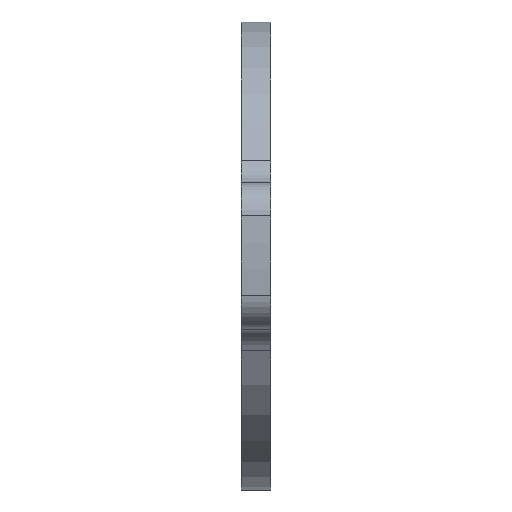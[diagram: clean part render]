
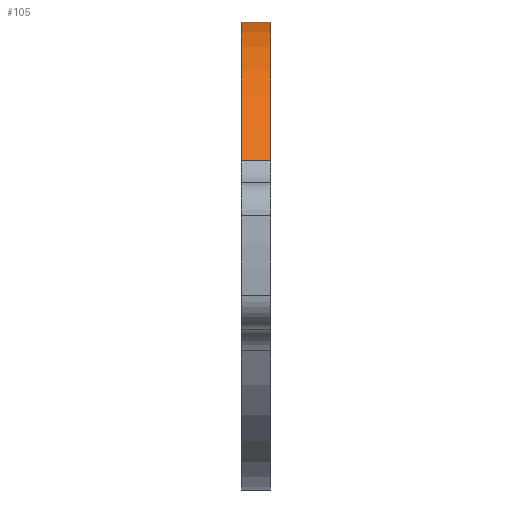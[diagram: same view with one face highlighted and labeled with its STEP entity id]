
A CAD part, left-side view. The second image highlights one B-rep face of the part: STEP entity #105.
In plain terms, the highlighted cylindrical face has radius 16 mm (diameter 32 mm), a partial arc.
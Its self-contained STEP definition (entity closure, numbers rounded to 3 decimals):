
#105=ADVANCED_FACE('NONE',(#195),#151,.T.);
#151=CYLINDRICAL_SURFACE('',#1066,16.);
#195=FACE_OUTER_BOUND('',#241,.T.);
#241=EDGE_LOOP('',(#478,#479,#480,#481));
#340=CIRCLE('',#1064,16.);
#341=CIRCLE('',#1065,16.);
#478=ORIENTED_EDGE('',*,*,#841,.F.);
#479=ORIENTED_EDGE('',*,*,#781,.T.);
#480=ORIENTED_EDGE('',*,*,#842,.T.);
#481=ORIENTED_EDGE('',*,*,#840,.F.);
#687=VERTEX_POINT('',#1520);
#689=VERTEX_POINT('',#1524);
#742=VERTEX_POINT('',#1651);
#743=VERTEX_POINT('',#1653);
#781=EDGE_CURVE('NONE',#687,#689,#901,.T.);
#840=EDGE_CURVE('NONE',#743,#742,#932,.T.);
#841=EDGE_CURVE('NONE',#687,#743,#340,.T.);
#842=EDGE_CURVE('NONE',#689,#742,#341,.T.);
#901=LINE('',#1525,#955);
#932=LINE('',#1654,#986);
#955=VECTOR('',#1196,1.);
#986=VECTOR('',#1315,1.);
#1064=AXIS2_PLACEMENT_3D('',#1656,#1318,#1319);
#1065=AXIS2_PLACEMENT_3D('',#1657,#1320,#1321);
#1066=AXIS2_PLACEMENT_3D('',#1658,#1322,#1323);
#1196=DIRECTION('',(0.,-1.,0.));
#1315=DIRECTION('',(0.,-1.,0.));
#1318=DIRECTION('',(0.,1.,0.));
#1319=DIRECTION('',(0.,0.,1.));
#1320=DIRECTION('',(0.,1.,0.));
#1321=DIRECTION('',(0.,0.,1.));
#1322=DIRECTION('',(0.,-1.,0.));
#1323=DIRECTION('',(0.,0.,-1.));
#1520=CARTESIAN_POINT('',(-14.626,2.,6.486));
#1524=CARTESIAN_POINT('',(-14.626,0.,6.486));
#1525=CARTESIAN_POINT('',(-14.626,2.,6.486));
#1651=CARTESIAN_POINT('',(15.199,0.,5.));
#1653=CARTESIAN_POINT('',(15.199,2.,5.));
#1654=CARTESIAN_POINT('',(15.199,2.,5.));
#1656=CARTESIAN_POINT('',(0.,2.,0.));
#1657=CARTESIAN_POINT('',(0.,0.,0.));
#1658=CARTESIAN_POINT('',(0.,2.,0.));
